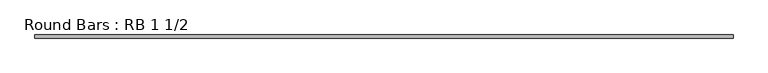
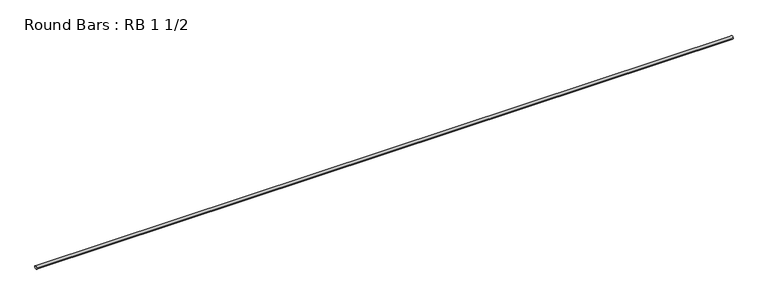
"""IFC4 building model written with IfcOpenShell, lengths in millimetres: member geometry, Round Bars : RB 1 1/2."""

from ifc_helpers import new_model, si_unit, point, frame, origin, origin_2d, place, context, project, spatial, circle_curve, trimmed, segment, composite_curve, outline, extrude, source, transform, mapped, element, save


def round_bars_rb_1_1_2_74885bf5(model_context):
    return source(origin(), model_context, "Body", "SweptSolid", [
        extrude(outline(composite_curve([segment(trimmed(circle_curve(origin_2d(), 19.05), [point((19.05, 0.0))], [point((-19.05, 0.0))], False, "CARTESIAN"), True, "CONTINUOUS"), segment(trimmed(circle_curve(origin_2d(), 19.05), [point((-19.05, 0.0))], [point((19.05, 0.0))], False, "CARTESIAN"), True, "CONTINUOUS")], self_intersect=False)), frame((-4214.4373535, 0.0, 0.0), z_axis=(1.0, 0.0, 0.0), x_axis=(0.0, 1.0, 0.0)), (0.0, 0.0, 1.0), 8461.7894698),
    ])


if __name__ == "__main__":
    model = new_model("IFC4")
    model_context = context("Model", 3, world=origin())
    ifc_project = project(units=[si_unit("LENGTHUNIT", "METRE", prefix="MILLI")], contexts=[model_context])
    site = spatial("IfcSite", under=ifc_project)
    building = spatial("IfcBuilding", under=site)
    placement = place(None, origin())
    round_bars_rb_1_1_2_shape = round_bars_rb_1_1_2_74885bf5(model_context)
    element("IfcMember", 1, ObjectType="Round Bars : RB 1 1/2", at=placement, inside=building, context=model_context, shape_type="MappedRepresentation", body=[
        mapped(round_bars_rb_1_1_2_shape, transform((0.0, 0.0, 0.0), x_axis=(1.0, 0.0, 0.0), y_axis=(0.0, 1.0, 0.0), z_axis=(0.0, 0.0, 1.0))),
    ])
    save(model, "model.ifc")
